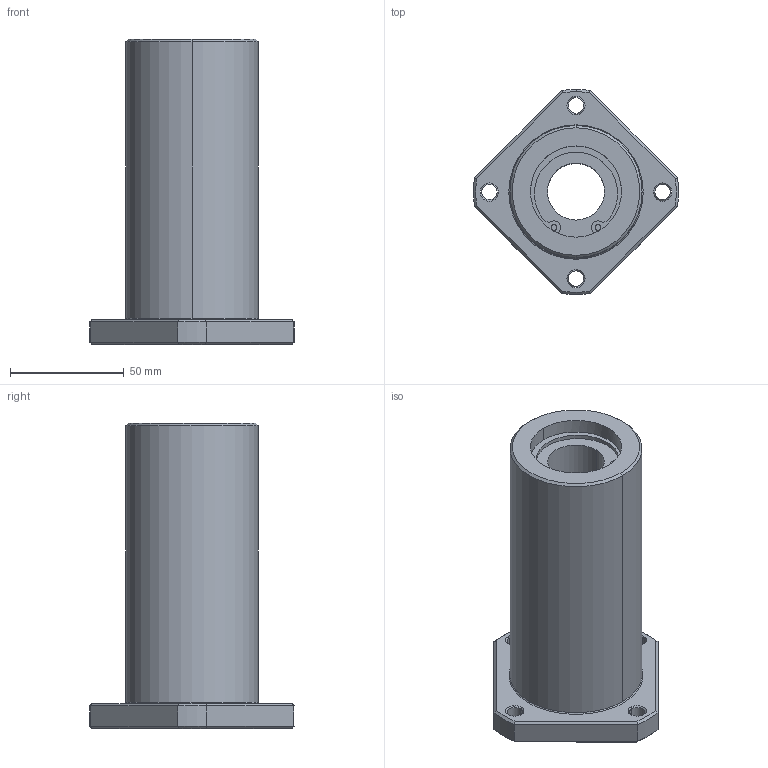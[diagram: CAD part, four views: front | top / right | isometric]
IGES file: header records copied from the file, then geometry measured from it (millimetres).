
Start section: 3D InterOp IGES (Version 21 0 1), Spatial Corp. Copyright (c) 1999-2007.
Global section: file name: LCF-25AVUU.igs; native system: Spatial Corp.; preprocessor: 3D InterOp GENERIC/IGES 3.0; author: Noname; organization: Noname; date: 20220517.163045; units: millimetre
Bounding box: 89.9 x 89.95 x 134 mm (x, y, z)
Surface area: 45922.3 mm2 (no closed solid volume)
Topology: 0 solids, 0 shells, 109 faces, 532 edges, 532 vertices
Faces by surface type: revolution 81, extrusion 28
